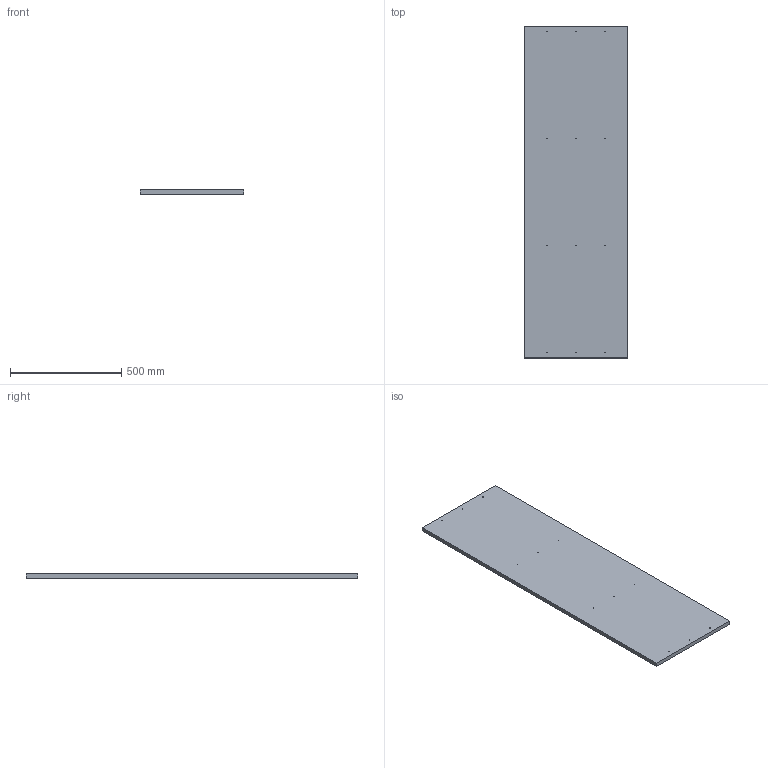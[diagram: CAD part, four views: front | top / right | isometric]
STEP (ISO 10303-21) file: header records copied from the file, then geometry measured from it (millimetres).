
FILE_DESCRIPTION(('Open CASCADE Model'),'2;1');
FILE_NAME('Open CASCADE Shape Model','2026-09-28T10:14:20',('Author'),( 'Open CASCADE'),'Open CASCADE STEP processor 7.9','Open CASCADE 7.9' ,'Unknown');
FILE_SCHEMA(('AUTOMOTIVE_DESIGN { 1 0 10303 214 1 1 1 1 }'));
Length unit declared in the file: millimetre
Products named in the file (1): Open CASCADE STEP translator 7.9 39
Bounding box: 464 x 1489 x 18 mm (x, y, z)
Volume: 12435067.7 mm3; surface area: 1453678.7 mm2
Topology: 1 solids, 1 shells, 18 faces, 48 edges, 32 vertices
Faces by surface type: cylinder 12, plane 6
Full cylindrical faces by diameter (mm): 2.5 x12
Entity records: 1258 total; most frequent: DIRECTION 206, CARTESIAN_POINT 195, ORIENTED_EDGE 96, LINE 96, VECTOR 96, PCURVE 96, DEFINITIONAL_REPRESENTATION 96, EDGE_CURVE 48
